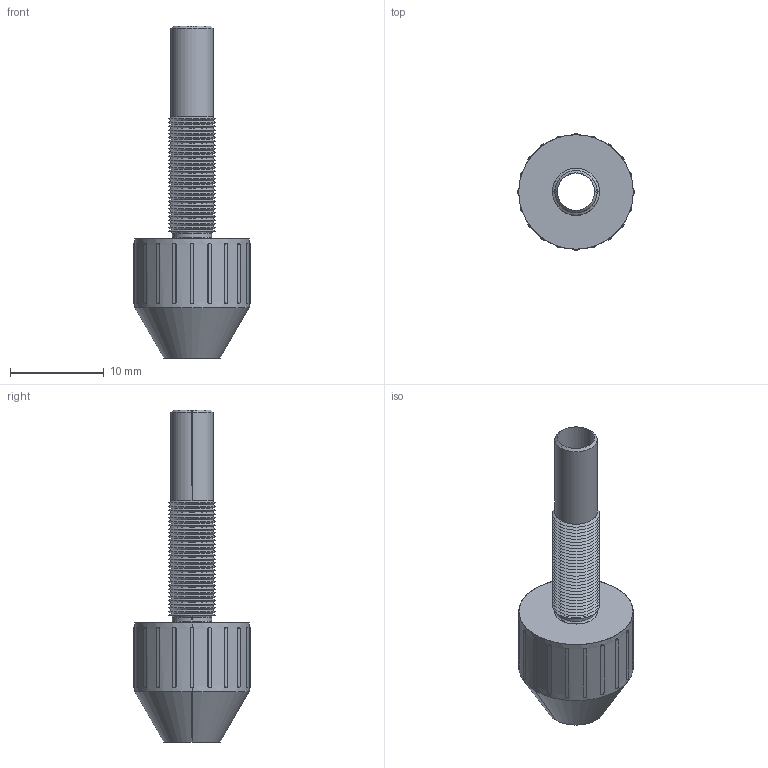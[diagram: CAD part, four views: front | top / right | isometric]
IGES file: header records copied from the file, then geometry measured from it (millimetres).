
Start section: SolidWorks IGES file using analytic representation for surfaces
Global section: file name: C:\Users\liam_\OneDrive\Documents\WORK\Work for WixRoyd\Job Files\J-00025 - Matt Davis CAD - 20191106\04. CAD Drawings\Wixroyd20191106\20056_v2\20056_v2_20191117_IGES\20056.W2123.igs; native system: SolidWorks 2017; preprocessor: SolidWorks 2017; author: liam_; date: 191117.214034; units: millimetre
Bounding box: 12.4 x 12.4 x 35.4 mm (x, y, z)
Surface area: 1559.6 mm2 (no closed solid volume)
Topology: 0 solids, 0 shells, 262 faces, 2032 edges, 2032 vertices
Faces by surface type: revolution 194, bspline 68
